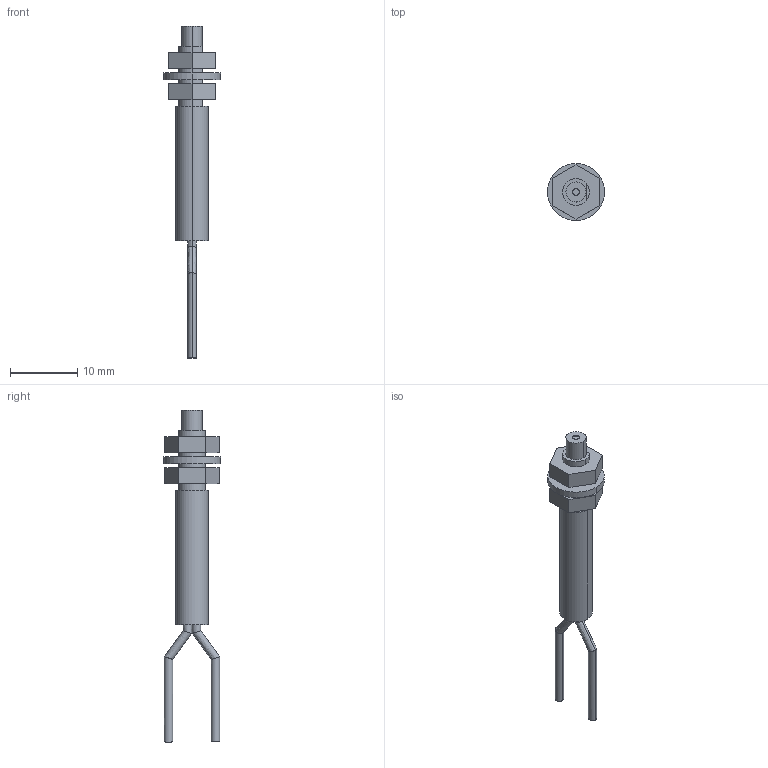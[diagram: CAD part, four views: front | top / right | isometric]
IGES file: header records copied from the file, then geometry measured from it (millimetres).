
Start section: SolidWorks IGES FILE using analytic representation for surfaces
Global section: file name: C:\Documents and Settings\yk0651\デスクトップ\3D_catalog_050904\0_IGES\FD-P60.IGS; native system: SolidWorks 2004 by SolidWorks Corporation; preprocessor: Version 5.3; author: yk0651; date: 050904.191403; units: millimetre
Bounding box: 8.5 x 8.5 x 49.5 mm (x, y, z)
Volume: 720.7 mm3; surface area: 1045.7 mm2
Topology: 4 solids, 4 shells, 55 faces, 120 edges, 77 vertices
Faces by surface type: revolution 29, plane 26
